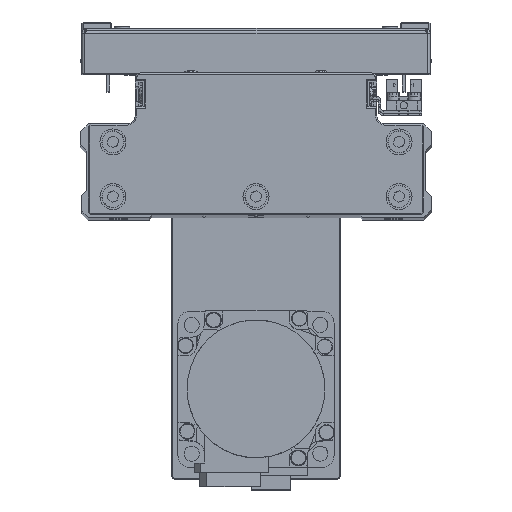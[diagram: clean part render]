
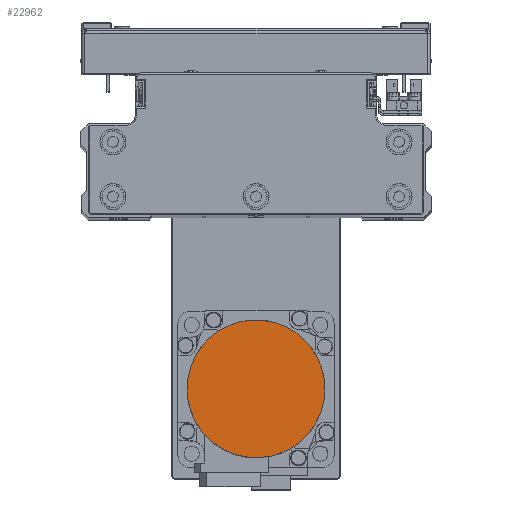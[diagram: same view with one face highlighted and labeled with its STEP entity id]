
A CAD part, top view. The second image highlights one B-rep face of the part: STEP entity #22962.
In plain terms, the highlighted planar face has unit normal (0, 0, 1) as drawn and (0, 0, -1) by its records, which use the part's own axes.
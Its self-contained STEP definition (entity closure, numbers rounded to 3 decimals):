
#1376 = AXIS2_PLACEMENT_3D ( 'NONE', #41822, #11532, #25016 ) ;
#2502 = CARTESIAN_POINT ( 'NONE',  ( 16.165, 21.07, -109.7 ) ) ;
#2725 = CARTESIAN_POINT ( 'NONE',  ( -16.165, 21.07, -109.7 ) ) ;
#2760 = CARTESIAN_POINT ( 'NONE',  ( -21.07, -16.165, -109.7 ) ) ;
#2991 = CARTESIAN_POINT ( 'NONE',  ( 8.539, -25.147, -109.7 ) ) ;
#3198 = CARTESIAN_POINT ( 'NONE',  ( 26.5, 0., -109.7 ) ) ;
#5829 = CARTESIAN_POINT ( 'NONE',  ( 21.07, 16.165, -109.7 ) ) ;
#6034 = CARTESIAN_POINT ( 'NONE',  ( -8.539, 25.147, -109.7 ) ) ;
#6067 = CARTESIAN_POINT ( 'NONE',  ( -25.147, -8.539, -109.7 ) ) ;
#6260 = CARTESIAN_POINT ( 'NONE',  ( -26.5, 0., -109.7 ) ) ;
#6296 = CARTESIAN_POINT ( 'NONE',  ( 1.734, -26.5, -109.7 ) ) ;
#6527 = CARTESIAN_POINT ( 'NONE',  ( 25.652, -6.871, -109.7 ) ) ;
#8589 = EDGE_CURVE ( 'NONE', #34579, #18229, #15590, .T. ) ;
#9131 = CARTESIAN_POINT ( 'NONE',  ( 25.147, 8.539, -109.7 ) ) ;
#9357 = CARTESIAN_POINT ( 'NONE',  ( -1.734, 26.5, -109.7 ) ) ;
#9394 = CARTESIAN_POINT ( 'NONE',  ( -26.5, -1.734, -109.7 ) ) ;
#9570 = CARTESIAN_POINT ( 'NONE',  ( -25.652, 6.871, -109.7 ) ) ;
#9604 = CARTESIAN_POINT ( 'NONE',  ( -6.871, -25.652, -109.7 ) ) ;
#9831 = CARTESIAN_POINT ( 'NONE',  ( 22.998, -13.28, -109.7 ) ) ;
#11532 = DIRECTION ( 'NONE',  ( 0., 0., 1. ) ) ;
#12437 = CARTESIAN_POINT ( 'NONE',  ( 26.5, 1.734, -109.7 ) ) ;
#12664 = CARTESIAN_POINT ( 'NONE',  ( 6.871, 25.652, -109.7 ) ) ;
#12897 = CARTESIAN_POINT ( 'NONE',  ( -22.998, 13.28, -109.7 ) ) ;
#12933 = CARTESIAN_POINT ( 'NONE',  ( -13.28, -22.998, -109.7 ) ) ;
#13141 = CARTESIAN_POINT ( 'NONE',  ( 17.512, -19.965, -109.7 ) ) ;
#14845 = FACE_OUTER_BOUND ( 'NONE', #19286, .T. ) ;
#15590 = B_SPLINE_CURVE_WITH_KNOTS ( 'NONE', 3,
 ( #42736, #12437, #25932, #39414, #9131, #22609, #36107, #5829, #19303, #32793, #2502, #15968, #29466, #42958, #12664, #26159, #39644, #9357, #22833, #36320, #6034, #19506, #33006, #2725, #16199, #29700, #43183, #12897, #26381, #39858, #9570, #23044, #36535, #6260 ),
 .UNSPECIFIED., .F., .F.,
 ( 4, 2, 2, 2, 2, 2, 2, 2, 2, 2, 2, 2, 2, 2, 2, 2, 4 ),
 ( 0., 0.062, 0.125, 0.187, 0.25, 0.312, 0.375, 0.437, 0.5, 0.562, 0.625, 0.687, 0.75, 0.813, 0.875, 0.938, 1. ),
 .UNSPECIFIED. ) ;
#15968 = CARTESIAN_POINT ( 'NONE',  ( 13.28, 22.998, -109.7 ) ) ;
#16199 = CARTESIAN_POINT ( 'NONE',  ( -17.512, 19.965, -109.7 ) ) ;
#16234 = CARTESIAN_POINT ( 'NONE',  ( -19.965, -17.512, -109.7 ) ) ;
#16461 = CARTESIAN_POINT ( 'NONE',  ( 11.744, -23.819, -109.7 ) ) ;
#17755 = CARTESIAN_POINT ( 'NONE',  ( -26.5, 0., -109.7 ) ) ;
#18229 = VERTEX_POINT ( 'NONE', #17755 ) ;
#19286 = EDGE_LOOP ( 'NONE', ( #35551, #23028 ) ) ;
#19303 = CARTESIAN_POINT ( 'NONE',  ( 19.965, 17.512, -109.7 ) ) ;
#19506 = CARTESIAN_POINT ( 'NONE',  ( -11.744, 23.819, -109.7 ) ) ;
#19542 = CARTESIAN_POINT ( 'NONE',  ( -23.819, -11.744, -109.7 ) ) ;
#19776 = CARTESIAN_POINT ( 'NONE',  ( 3.469, -26.329, -109.7 ) ) ;
#20002 = CARTESIAN_POINT ( 'NONE',  ( 26.329, -3.469, -109.7 ) ) ;
#22609 = CARTESIAN_POINT ( 'NONE',  ( 23.819, 11.744, -109.7 ) ) ;
#22833 = CARTESIAN_POINT ( 'NONE',  ( -3.469, 26.329, -109.7 ) ) ;
#22866 = CARTESIAN_POINT ( 'NONE',  ( -26.329, -3.469, -109.7 ) ) ;
#22962 = ADVANCED_FACE ( 'NONE', ( #14845 ), #28341, .F. ) ;
#23028 = ORIENTED_EDGE ( 'NONE', *, *, #23527, .F. ) ;
#23044 = CARTESIAN_POINT ( 'NONE',  ( -26.329, 3.469, -109.7 ) ) ;
#23079 = CARTESIAN_POINT ( 'NONE',  ( -3.469, -26.329, -109.7 ) ) ;
#23309 = CARTESIAN_POINT ( 'NONE',  ( 23.819, -11.744, -109.7 ) ) ;
#23527 = EDGE_CURVE ( 'NONE', #18229, #34579, #37250, .T. ) ;
#25016 = DIRECTION ( 'NONE',  ( 1., 0., 0. ) ) ;
#25932 = CARTESIAN_POINT ( 'NONE',  ( 26.329, 3.469, -109.7 ) ) ;
#26159 = CARTESIAN_POINT ( 'NONE',  ( 3.469, 26.329, -109.7 ) ) ;
#26381 = CARTESIAN_POINT ( 'NONE',  ( -23.819, 11.744, -109.7 ) ) ;
#26415 = CARTESIAN_POINT ( 'NONE',  ( -11.744, -23.819, -109.7 ) ) ;
#26627 = CARTESIAN_POINT ( 'NONE',  ( 19.965, -17.512, -109.7 ) ) ;
#28341 = PLANE ( 'NONE',  #1376 ) ;
#29466 = CARTESIAN_POINT ( 'NONE',  ( 11.744, 23.819, -109.7 ) ) ;
#29700 = CARTESIAN_POINT ( 'NONE',  ( -19.965, 17.512, -109.7 ) ) ;
#29739 = CARTESIAN_POINT ( 'NONE',  ( -17.512, -19.965, -109.7 ) ) ;
#29956 = CARTESIAN_POINT ( 'NONE',  ( 13.28, -22.998, -109.7 ) ) ;
#32793 = CARTESIAN_POINT ( 'NONE',  ( 17.512, 19.965, -109.7 ) ) ;
#33006 = CARTESIAN_POINT ( 'NONE',  ( -13.28, 22.998, -109.7 ) ) ;
#33043 = CARTESIAN_POINT ( 'NONE',  ( -22.998, -13.28, -109.7 ) ) ;
#33278 = CARTESIAN_POINT ( 'NONE',  ( 6.871, -25.652, -109.7 ) ) ;
#33485 = CARTESIAN_POINT ( 'NONE',  ( 26.5, -1.734, -109.7 ) ) ;
#34579 = VERTEX_POINT ( 'NONE', #40689 ) ;
#35551 = ORIENTED_EDGE ( 'NONE', *, *, #8589, .F. ) ;
#36107 = CARTESIAN_POINT ( 'NONE',  ( 22.998, 13.28, -109.7 ) ) ;
#36320 = CARTESIAN_POINT ( 'NONE',  ( -6.871, 25.652, -109.7 ) ) ;
#36352 = CARTESIAN_POINT ( 'NONE',  ( -25.652, -6.871, -109.7 ) ) ;
#36535 = CARTESIAN_POINT ( 'NONE',  ( -26.5, 1.734, -109.7 ) ) ;
#36572 = CARTESIAN_POINT ( 'NONE',  ( -1.734, -26.5, -109.7 ) ) ;
#36803 = CARTESIAN_POINT ( 'NONE',  ( 25.147, -8.539, -109.7 ) ) ;
#37250 = B_SPLINE_CURVE_WITH_KNOTS ( 'NONE', 3,
 ( #39682, #9394, #22866, #36352, #6067, #19542, #33043, #2760, #16234, #29739, #43218, #12933, #26415, #39890, #9604, #23079, #36572, #6296, #19776, #33278, #2991, #16461, #29956, #43429, #13141, #26627, #40114, #9831, #23309, #36803, #6527, #20002, #33485, #3198 ),
 .UNSPECIFIED., .F., .F.,
 ( 4, 2, 2, 2, 2, 2, 2, 2, 2, 2, 2, 2, 2, 2, 2, 2, 4 ),
 ( 0., 0.063, 0.125, 0.188, 0.25, 0.312, 0.375, 0.437, 0.5, 0.562, 0.625, 0.687, 0.75, 0.813, 0.875, 0.938, 1. ),
 .UNSPECIFIED. ) ;
#39414 = CARTESIAN_POINT ( 'NONE',  ( 25.652, 6.871, -109.7 ) ) ;
#39644 = CARTESIAN_POINT ( 'NONE',  ( 1.734, 26.5, -109.7 ) ) ;
#39682 = CARTESIAN_POINT ( 'NONE',  ( -26.5, 0., -109.7 ) ) ;
#39858 = CARTESIAN_POINT ( 'NONE',  ( -25.147, 8.539, -109.7 ) ) ;
#39890 = CARTESIAN_POINT ( 'NONE',  ( -8.539, -25.147, -109.7 ) ) ;
#40114 = CARTESIAN_POINT ( 'NONE',  ( 21.07, -16.165, -109.7 ) ) ;
#40689 = CARTESIAN_POINT ( 'NONE',  ( 26.5, 0., -109.7 ) ) ;
#41822 = CARTESIAN_POINT ( 'NONE',  ( 0., 0., -109.7 ) ) ;
#42736 = CARTESIAN_POINT ( 'NONE',  ( 26.5, 0., -109.7 ) ) ;
#42958 = CARTESIAN_POINT ( 'NONE',  ( 8.539, 25.147, -109.7 ) ) ;
#43183 = CARTESIAN_POINT ( 'NONE',  ( -21.07, 16.165, -109.7 ) ) ;
#43218 = CARTESIAN_POINT ( 'NONE',  ( -16.165, -21.07, -109.7 ) ) ;
#43429 = CARTESIAN_POINT ( 'NONE',  ( 16.165, -21.07, -109.7 ) ) ;
